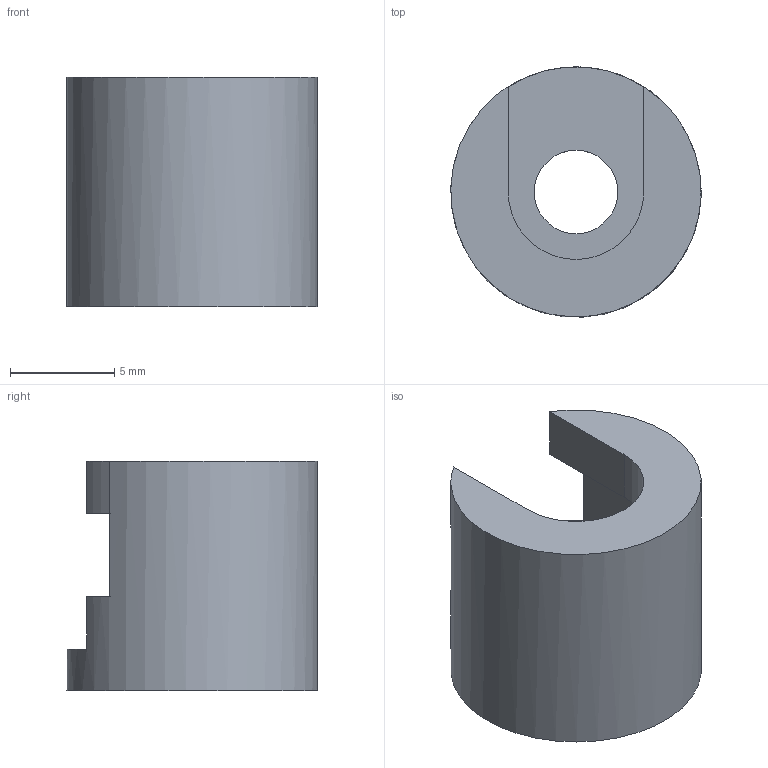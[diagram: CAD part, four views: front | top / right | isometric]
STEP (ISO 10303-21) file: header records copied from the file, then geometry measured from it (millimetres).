
FILE_DESCRIPTION (( 'STEP AP214' ), '1' );
FILE_NAME ('StrongBox ND držák relingu èelní, vrut_246699 a 246700_3D.STEP', '2020-05-22T11:34:31', ( '' ), ( '' ), 'SwSTEP 2.0', 'SolidWorks 2019', '' );
FILE_SCHEMA (( 'AUTOMOTIVE_DESIGN' ));
Length unit declared in the file: millimetre
Products named in the file (1): StrongBox ND držák relingu èelní, vrut_246699 a 246700_3D
Bounding box: 12 x 12 x 11 mm (x, y, z)
Volume: 630.2 mm3; surface area: 808.8 mm2
Topology: 1 solids, 1 shells, 17 faces, 44 edges, 29 vertices
Faces by surface type: plane 11, cylinder 6
Full cylindrical faces by diameter (mm): 4 x1, 12 x1
Entity records: 520 total; most frequent: DIRECTION 88, CARTESIAN_POINT 83, ORIENTED_EDGE 78, EDGE_CURVE 39, AXIS2_PLACEMENT_3D 32, VERTEX_POINT 27, VECTOR 24, LINE 24
